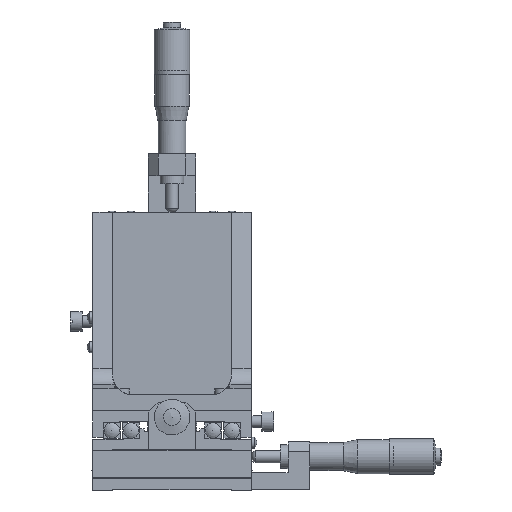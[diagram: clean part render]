
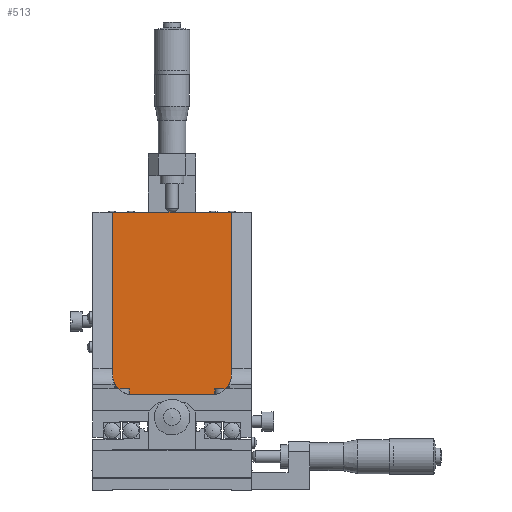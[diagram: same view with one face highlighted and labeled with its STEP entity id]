
A CAD part, left-side view. The second image highlights one B-rep face of the part: STEP entity #513.
In plain terms, the highlighted planar face has unit normal (-1, 0, 0).
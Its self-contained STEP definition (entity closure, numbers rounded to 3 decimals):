
#513 = ADVANCED_FACE( '', ( #1204 ), #1205, .F. );
#1204 = FACE_OUTER_BOUND( '', #2951, .T. );
#1205 = PLANE( '', #2952 );
#2951 = EDGE_LOOP( '', ( #4735, #4736, #4737, #4738, #4739, #4740 ) );
#2952 = AXIS2_PLACEMENT_3D( '', #4741, #4742, #4743 );
#4735 = ORIENTED_EDGE( '', *, *, #9579, .F. );
#4736 = ORIENTED_EDGE( '', *, *, #9580, .F. );
#4737 = ORIENTED_EDGE( '', *, *, #9581, .F. );
#4738 = ORIENTED_EDGE( '', *, *, #9582, .F. );
#4739 = ORIENTED_EDGE( '', *, *, #9583, .F. );
#4740 = ORIENTED_EDGE( '', *, *, #9577, .F. );
#4741 = CARTESIAN_POINT( '', ( 32., 20., 58. ) );
#4742 = DIRECTION( '', ( 1., 0., 0. ) );
#4743 = DIRECTION( '', ( 0., 1., 0. ) );
#9577 = EDGE_CURVE( '', #11038, #11040, #11041, .T. );
#9579 = EDGE_CURVE( '', #11043, #11038, #11044, .T. );
#9580 = EDGE_CURVE( '', #11045, #11043, #11046, .T. );
#9581 = EDGE_CURVE( '', #11047, #11045, #11048, .T. );
#9582 = EDGE_CURVE( '', #11049, #11047, #11050, .T. );
#9583 = EDGE_CURVE( '', #11040, #11049, #11051, .T. );
#11038 = VERTEX_POINT( '', #13419 );
#11040 = VERTEX_POINT( '', #13422 );
#11041 = LINE( '', #13423, #13424 );
#11043 = VERTEX_POINT( '', #13427 );
#11044 = CIRCLE( '', #13428, 10. );
#11045 = VERTEX_POINT( '', #13429 );
#11046 = LINE( '', #13430, #13431 );
#11047 = VERTEX_POINT( '', #13432 );
#11048 = CIRCLE( '', #13433, 10. );
#11049 = VERTEX_POINT( '', #13434 );
#11050 = LINE( '', #13435, #13436 );
#11051 = LINE( '', #13437, #13438 );
#13419 = CARTESIAN_POINT( '', ( 32., 30., 58. ) );
#13422 = CARTESIAN_POINT( '', ( 32., 30., 140. ) );
#13423 = CARTESIAN_POINT( '', ( 32., 30., 58. ) );
#13424 = VECTOR( '', #17184, 1000. );
#13427 = CARTESIAN_POINT( '', ( 32., 20., 48. ) );
#13428 = AXIS2_PLACEMENT_3D( '', #17186, #17187, #17188 );
#13429 = CARTESIAN_POINT( '', ( 32., -20., 48. ) );
#13430 = CARTESIAN_POINT( '', ( 32., -20., 48. ) );
#13431 = VECTOR( '', #17189, 1000. );
#13432 = CARTESIAN_POINT( '', ( 32., -30., 58. ) );
#13433 = AXIS2_PLACEMENT_3D( '', #17190, #17191, #17192 );
#13434 = CARTESIAN_POINT( '', ( 32., -30., 140. ) );
#13435 = CARTESIAN_POINT( '', ( 32., -30., 140. ) );
#13436 = VECTOR( '', #17193, 1000. );
#13437 = CARTESIAN_POINT( '', ( 32., 30., 140. ) );
#13438 = VECTOR( '', #17194, 1000. );
#17184 = DIRECTION( '', ( 0., 0., 1. ) );
#17186 = CARTESIAN_POINT( '', ( 32., 20., 58. ) );
#17187 = DIRECTION( '', ( 1., 0., 0. ) );
#17188 = DIRECTION( '', ( 0., 0., -1. ) );
#17189 = DIRECTION( '', ( 0., 1., 0. ) );
#17190 = CARTESIAN_POINT( '', ( 32., -20., 58. ) );
#17191 = DIRECTION( '', ( 1., 0., 0. ) );
#17192 = DIRECTION( '', ( 0., -1., 0. ) );
#17193 = DIRECTION( '', ( 0., 0., -1. ) );
#17194 = DIRECTION( '', ( 0., -1., 0. ) );
